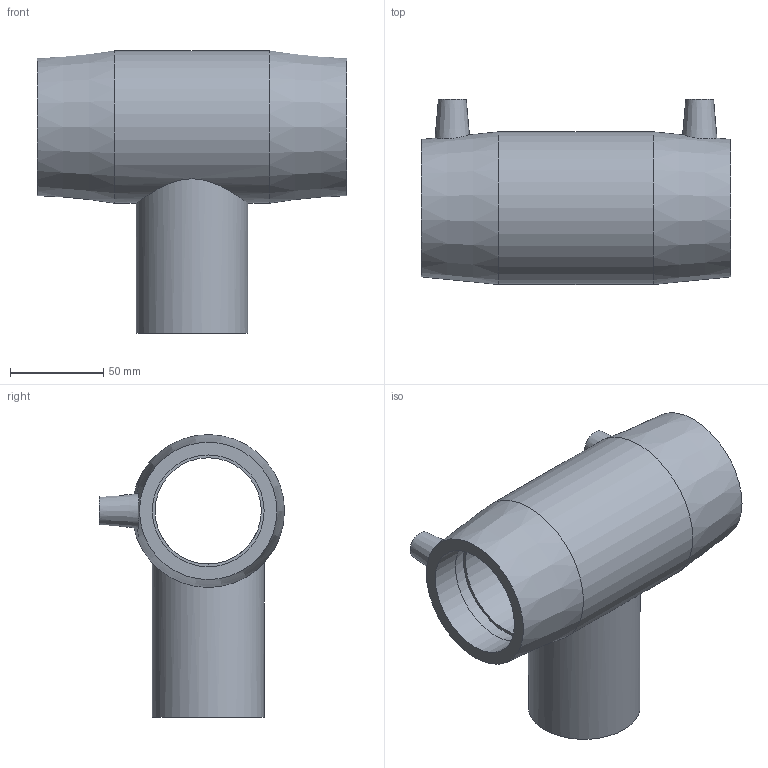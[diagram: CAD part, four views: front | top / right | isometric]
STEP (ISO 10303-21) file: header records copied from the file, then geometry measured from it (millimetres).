
FILE_DESCRIPTION(/* description */ ('PLASSON TEE 2''''IPS'),/* implementation_level */ '2;1');
FILE_NAME(/* name */ 'C:\Dropbox\KIMPROJECTS-Inventor 2019\99-16-3568-Processing Inch\ASTM ElectroFusion 2021\5904B\5904B003020.ipt.stp',/* time_stamp */ '2021-08-30T09:49:36+03:00',/* author */ ('KIM'),/* organization */ (''),/* preprocessor_version */ 'ST-DEVELOPER v17.2',/* originating_system */ 'Autodesk Inventor 2019',/* authorisation */ '');
FILE_SCHEMA (('AUTOMOTIVE_DESIGN { 1 0 10303 214 3 1 1 }'));
Length unit declared in the file: inch
Products named in the file (1): 5904B003020
Bounding box: 166.12 x 99.44 x 152.02 mm (x, y, z)
Volume: 436557.3 mm3; surface area: 103017.9 mm2
Topology: 1 solids, 1 shells, 31 faces, 70 edges, 52 vertices
Faces by surface type: plane 13, cylinder 12, cone 6
Full cylindrical faces by diameter (mm): 4.8 x2, 9.6 x2, 48.08 x1, 57.095 x1, 60.1 x5, 82.042 x1
Entity records: 1151 total; most frequent: CARTESIAN_POINT 354, DIRECTION 170, ORIENTED_EDGE 140, AXIS2_PLACEMENT_3D 76, EDGE_CURVE 70, VERTEX_POINT 52, EDGE_LOOP 46, CIRCLE 44
